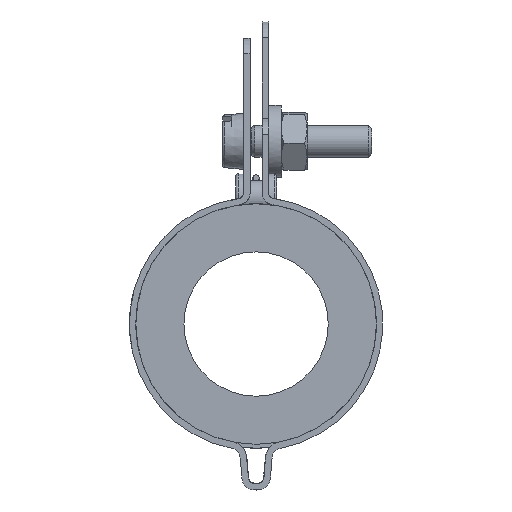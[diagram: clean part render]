
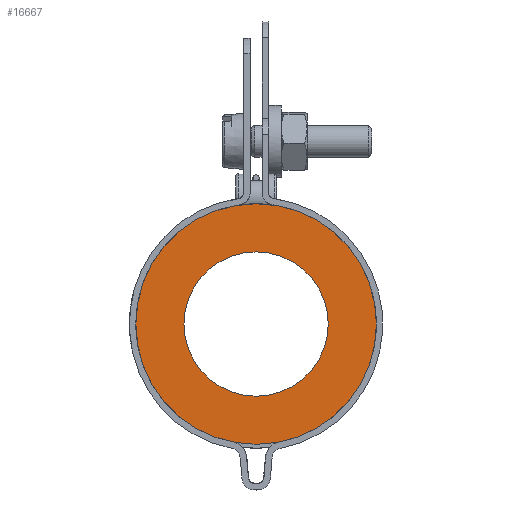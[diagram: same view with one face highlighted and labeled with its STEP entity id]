
A CAD part, front view. The second image highlights one B-rep face of the part: STEP entity #16667.
In plain terms, the highlighted planar face has unit normal (0, -1, 0).
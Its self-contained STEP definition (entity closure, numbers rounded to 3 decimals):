
#3253=FACE_BOUND($,#4891,.T.);
#3254=FACE_BOUND($,#4892,.T.);
#4891=EDGE_LOOP($,(#14103));
#4892=EDGE_LOOP($,(#14104));
#5666=CIRCLE($,#17997,15.);
#5771=CIRCLE($,#18285,9.);
#7127=VERTEX_POINT($,#27260);
#7318=VERTEX_POINT($,#28471);
#9362=EDGE_CURVE($,#7127,#7127,#5666,.T.);
#9627=EDGE_CURVE($,#7318,#7318,#5771,.T.);
#14103=ORIENTED_EDGE($,*,*,#9627,.T.);
#14104=ORIENTED_EDGE($,*,*,#9362,.T.);
#15058=PLANE($,#18287);
#16667=ADVANCED_FACE($,(#3253,#3254),#15058,.T.);
#17997=AXIS2_PLACEMENT_3D($,#27261,#22148,#22149);
#18285=AXIS2_PLACEMENT_3D($,#28472,#22802,#22803);
#18287=AXIS2_PLACEMENT_3D($,#28474,#22806,#22807);
#22148=DIRECTION('center_axis',(0.,-1.,0.));
#22149=DIRECTION('ref_axis',(1.,0.,0.));
#22802=DIRECTION('center_axis',(0.,1.,0.));
#22803=DIRECTION('ref_axis',(1.,0.,0.));
#22806=DIRECTION('center_axis',(0.,-1.,0.));
#22807=DIRECTION('ref_axis',(0.,0.,-1.));
#27260=CARTESIAN_POINT('',(6.645,46.577,19.693));
#27261=CARTESIAN_POINT('Origin',(21.645,46.577,19.693));
#28471=CARTESIAN_POINT('',(12.645,46.577,19.693));
#28472=CARTESIAN_POINT('Origin',(21.645,46.577,19.693));
#28474=CARTESIAN_POINT('Origin',(21.645,46.577,19.693));
